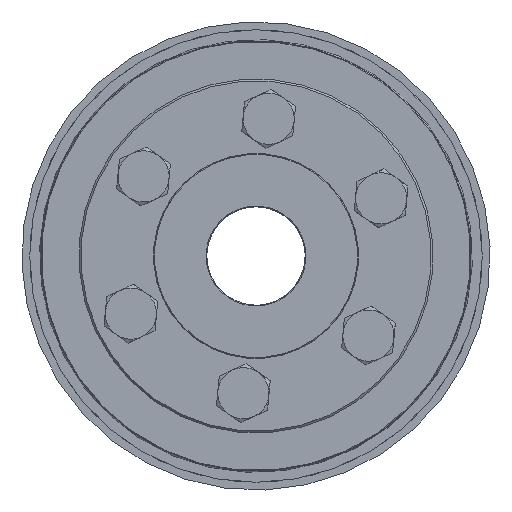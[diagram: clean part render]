
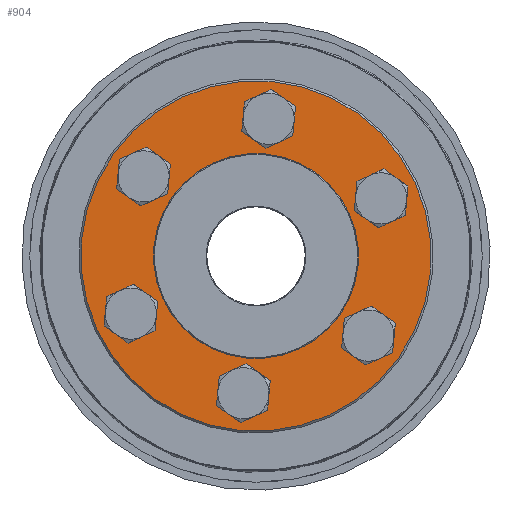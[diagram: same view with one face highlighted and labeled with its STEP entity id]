
A CAD part, left-side view. The second image highlights one B-rep face of the part: STEP entity #904.
In plain terms, the highlighted planar face has unit normal (-1, 0, 0).
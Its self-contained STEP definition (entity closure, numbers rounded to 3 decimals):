
#904 = ADVANCED_FACE( 'NONE', ( #1782, #1783, #1784, #1785, #1786, #1787, #1788, #1789 ), #1790, .F. );
#1782 = FACE_OUTER_BOUND( '', #2677, .T. );
#1783 = FACE_BOUND( '', #2678, .T. );
#1784 = FACE_BOUND( '', #2679, .T. );
#1785 = FACE_BOUND( '', #2680, .T. );
#1786 = FACE_BOUND( '', #2681, .T. );
#1787 = FACE_BOUND( '', #2682, .T. );
#1788 = FACE_BOUND( '', #2683, .T. );
#1789 = FACE_BOUND( '', #2684, .T. );
#1790 = PLANE( '', #2685 );
#2677 = EDGE_LOOP( '', ( #3887 ) );
#2678 = EDGE_LOOP( '', ( #3888 ) );
#2679 = EDGE_LOOP( '', ( #3889 ) );
#2680 = EDGE_LOOP( '', ( #3890 ) );
#2681 = EDGE_LOOP( '', ( #3891 ) );
#2682 = EDGE_LOOP( '', ( #3892 ) );
#2683 = EDGE_LOOP( '', ( #3893 ) );
#2684 = EDGE_LOOP( '', ( #3894 ) );
#2685 = AXIS2_PLACEMENT_3D( '', #3895, #3896, #3897 );
#3887 = ORIENTED_EDGE( '', *, *, #4727, .T. );
#3888 = ORIENTED_EDGE( '', *, *, #4675, .T. );
#3889 = ORIENTED_EDGE( '', *, *, #4728, .T. );
#3890 = ORIENTED_EDGE( '', *, *, #4729, .T. );
#3891 = ORIENTED_EDGE( '', *, *, #4688, .T. );
#3892 = ORIENTED_EDGE( '', *, *, #4481, .T. );
#3893 = ORIENTED_EDGE( '', *, *, #4653, .T. );
#3894 = ORIENTED_EDGE( '', *, *, #4713, .F. );
#3895 = CARTESIAN_POINT( '', ( 0., 26., 0. ) );
#3896 = DIRECTION( '', ( 1., 0., 0. ) );
#3897 = DIRECTION( '', ( 0., 1., 0. ) );
#4481 = EDGE_CURVE( 'NONE', #5086, #5086, #5087, .T. );
#4653 = EDGE_CURVE( 'NONE', #5350, #5350, #5351, .T. );
#4675 = EDGE_CURVE( 'NONE', #5382, #5382, #5383, .T. );
#4688 = EDGE_CURVE( 'NONE', #5398, #5398, #5399, .T. );
#4713 = EDGE_CURVE( 'NONE', #5427, #5427, #5428, .T. );
#4727 = EDGE_CURVE( 'NONE', #5446, #5446, #5447, .T. );
#4728 = EDGE_CURVE( 'NONE', #5448, #5448, #5449, .T. );
#4729 = EDGE_CURVE( 'NONE', #5450, #5450, #5451, .T. );
#5086 = VERTEX_POINT( '', #5935 );
#5087 = CIRCLE( '', #5936, 4.5 );
#5350 = VERTEX_POINT( '', #6547 );
#5351 = CIRCLE( '', #6548, 4.5 );
#5382 = VERTEX_POINT( '', #6583 );
#5383 = CIRCLE( '', #6584, 4.5 );
#5398 = VERTEX_POINT( '', #6606 );
#5399 = CIRCLE( '', #6607, 4.5 );
#5427 = VERTEX_POINT( '', #6645 );
#5428 = CIRCLE( '', #6646, 26. );
#5446 = VERTEX_POINT( '', #6664 );
#5447 = CIRCLE( '', #6665, 44.5 );
#5448 = VERTEX_POINT( '', #6666 );
#5449 = CIRCLE( '', #6667, 4.5 );
#5450 = VERTEX_POINT( '', #6668 );
#5451 = CIRCLE( '', #6669, 4.5 );
#5935 = CARTESIAN_POINT( '', ( 0., 17.5, -34.811 ) );
#5936 = AXIS2_PLACEMENT_3D( '', #7058, #7059, #7060 );
#6547 = CARTESIAN_POINT( '', ( 0., 35., -4.5 ) );
#6548 = AXIS2_PLACEMENT_3D( '', #7304, #7305, #7306 );
#6583 = CARTESIAN_POINT( '', ( 0., 17.5, 25.811 ) );
#6584 = AXIS2_PLACEMENT_3D( '', #7338, #7339, #7340 );
#6606 = CARTESIAN_POINT( '', ( 0., -17.5, -34.811 ) );
#6607 = AXIS2_PLACEMENT_3D( '', #7348, #7349, #7350 );
#6645 = CARTESIAN_POINT( '', ( 0., 0., 26. ) );
#6646 = AXIS2_PLACEMENT_3D( '', #7367, #7368, #7369 );
#6664 = CARTESIAN_POINT( '', ( 0., 0., -44.5 ) );
#6665 = AXIS2_PLACEMENT_3D( '', #7382, #7383, #7384 );
#6666 = CARTESIAN_POINT( '', ( 0., -17.5, 25.811 ) );
#6667 = AXIS2_PLACEMENT_3D( '', #7385, #7386, #7387 );
#6668 = CARTESIAN_POINT( '', ( 0., -35., -4.5 ) );
#6669 = AXIS2_PLACEMENT_3D( '', #7388, #7389, #7390 );
#7058 = CARTESIAN_POINT( '', ( 0., 17.5, -30.311 ) );
#7059 = DIRECTION( '', ( 1., 0., 0. ) );
#7060 = DIRECTION( '', ( 0., 0., -1. ) );
#7304 = CARTESIAN_POINT( '', ( 0., 35., 0. ) );
#7305 = DIRECTION( '', ( 1., 0., 0. ) );
#7306 = DIRECTION( '', ( 0., 0., -1. ) );
#7338 = CARTESIAN_POINT( '', ( 0., 17.5, 30.311 ) );
#7339 = DIRECTION( '', ( 1., 0., 0. ) );
#7340 = DIRECTION( '', ( 0., 0., -1. ) );
#7348 = CARTESIAN_POINT( '', ( 0., -17.5, -30.311 ) );
#7349 = DIRECTION( '', ( 1., 0., 0. ) );
#7350 = DIRECTION( '', ( 0., 0., -1. ) );
#7367 = CARTESIAN_POINT( '', ( 0., 0., 0. ) );
#7368 = DIRECTION( '', ( -1., 0., 0. ) );
#7369 = DIRECTION( '', ( 0., 0., 1. ) );
#7382 = CARTESIAN_POINT( '', ( 0., 0., 0. ) );
#7383 = DIRECTION( '', ( -1., 0., 0. ) );
#7384 = DIRECTION( '', ( 0., 0., -1. ) );
#7385 = CARTESIAN_POINT( '', ( 0., -17.5, 30.311 ) );
#7386 = DIRECTION( '', ( 1., 0., 0. ) );
#7387 = DIRECTION( '', ( 0., 0., -1. ) );
#7388 = CARTESIAN_POINT( '', ( 0., -35., 0. ) );
#7389 = DIRECTION( '', ( 1., 0., 0. ) );
#7390 = DIRECTION( '', ( 0., 0., -1. ) );
